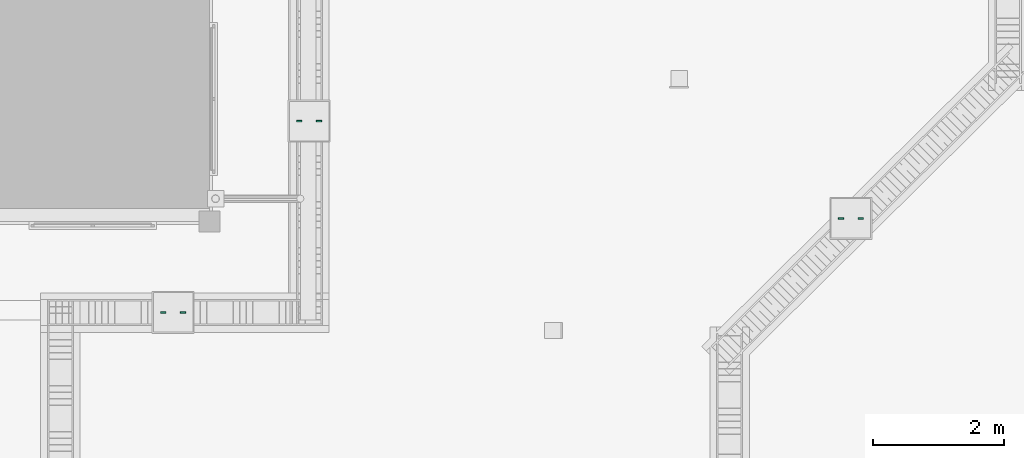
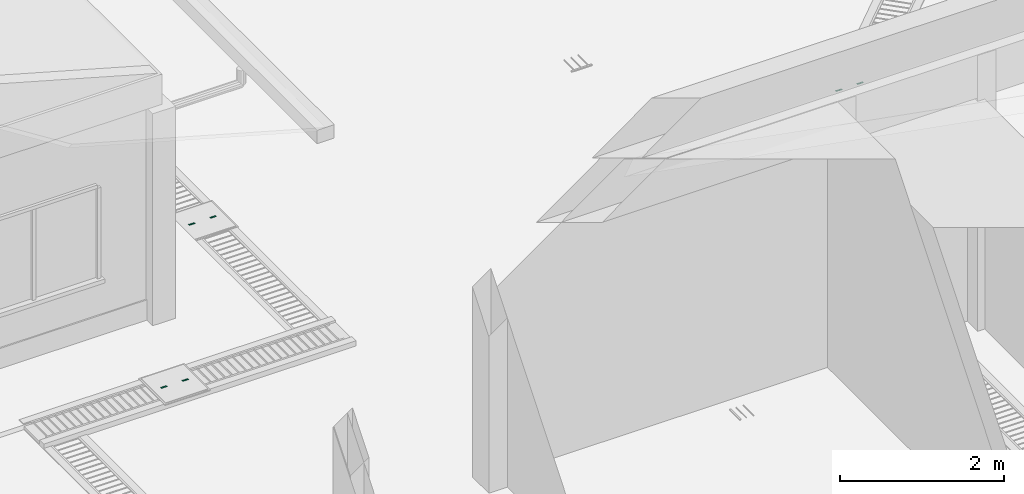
# One storey, part 127 of 151: 6 distribution chamber elements.
"""IFC2X3 building model written with IfcOpenShell, lengths in metres."""

from ifc_helpers import new_model, si_unit, origin, origin_with_axes, place, context, subcontext, project, spatial, faceted_brep, element, save


model = new_model("IFC2X3")

# Units and contexts
model_context = context("Model", 3, precision=1e-05, world=origin_with_axes())
body_context = subcontext(model_context, "Body", "Model", "MODEL_VIEW")
ifc_project = project(units=[si_unit("LENGTHUNIT", "METRE"), si_unit("AREAUNIT", "SQUARE_METRE"), si_unit("VOLUMEUNIT", "CUBIC_METRE"), si_unit("PLANEANGLEUNIT", "RADIAN")], contexts=[model_context])

# Site, building, storey
site_placement = place(None, origin_with_axes())
site = spatial("IfcSite", under=ifc_project, at=site_placement, Name="Predio Los Mangos - Morales, San Martín", CompositionType="ELEMENT")
building_placement = place(site_placement, origin())
building = spatial("IfcBuilding", under=site, at=building_placement, Name="Hogar de Refugio Temporal", CompositionType="ELEMENT")
storey_placement = place(building_placement, origin())
storey = spatial("IfcBuildingStorey", under=building, at=storey_placement, Name="NIVEL 1 (NPT +0.00)", CompositionType="ELEMENT", Elevation=0.0)

# Distribution chamber elements
distribution_chamber_element_1_placement = place(storey_placement, origin())
element("IfcDistributionChamberElement", 1, at=distribution_chamber_element_1_placement, inside=storey, Name="tapa_insp_asa", ObjectType="Tapa de inspección", context=body_context, shape_type="Brep", body=[
    faceted_brep([(32.925, 27.818, 0.104), (32.925, 27.842, 0.104), (33.005, 27.842, 0.104), (33.005, 27.818, 0.104), (32.925, 27.818, 0.108), (33.005, 27.818, 0.108), (33.005, 27.842, 0.108), (32.925, 27.842, 0.108)], [[[0, 1, 2, 3]], [[4, 5, 6, 7]], [[0, 3, 5, 4]], [[3, 2, 6, 5]], [[2, 1, 7, 6]], [[1, 0, 4, 7]]]),
])
distribution_chamber_element_2_placement = place(storey_placement, origin())
element("IfcDistributionChamberElement", 2, at=distribution_chamber_element_2_placement, inside=storey, Name="tapa_insp_asa", ObjectType="Tapa de inspección", context=body_context, shape_type="Brep", body=[
    faceted_brep([(33.225, 27.818, 0.104), (33.225, 27.842, 0.104), (33.305, 27.842, 0.104), (33.305, 27.818, 0.104), (33.225, 27.818, 0.108), (33.305, 27.818, 0.108), (33.305, 27.842, 0.108), (33.225, 27.842, 0.108)], [[[0, 1, 2, 3]], [[4, 5, 6, 7]], [[0, 3, 5, 4]], [[3, 2, 6, 5]], [[2, 1, 7, 6]], [[1, 0, 4, 7]]]),
])
distribution_chamber_element_3_placement = place(storey_placement, origin())
element("IfcDistributionChamberElement", 3, at=distribution_chamber_element_3_placement, inside=storey, Name="tapa_insp_asa", ObjectType="Tapa de inspección", context=body_context, shape_type="Brep", body=[
    faceted_brep([(30.853, 24.907, 0.17), (30.853, 24.931, 0.17), (30.933, 24.931, 0.17), (30.933, 24.907, 0.17), (30.853, 24.907, 0.174), (30.933, 24.907, 0.174), (30.933, 24.931, 0.174), (30.853, 24.931, 0.174)], [[[0, 1, 2, 3]], [[4, 5, 6, 7]], [[0, 3, 5, 4]], [[3, 2, 6, 5]], [[2, 1, 7, 6]], [[1, 0, 4, 7]]]),
])
distribution_chamber_element_4_placement = place(storey_placement, origin())
element("IfcDistributionChamberElement", 4, at=distribution_chamber_element_4_placement, inside=storey, Name="tapa_insp_asa", ObjectType="Tapa de inspección", context=body_context, shape_type="Brep", body=[
    faceted_brep([(31.153, 24.907, 0.17), (31.153, 24.931, 0.17), (31.233, 24.931, 0.17), (31.233, 24.907, 0.17), (31.153, 24.907, 0.174), (31.233, 24.907, 0.174), (31.233, 24.931, 0.174), (31.153, 24.931, 0.174)], [[[0, 1, 2, 3]], [[4, 5, 6, 7]], [[0, 3, 5, 4]], [[3, 2, 6, 5]], [[2, 1, 7, 6]], [[1, 0, 4, 7]]]),
])
distribution_chamber_element_5_placement = place(storey_placement, origin())
element("IfcDistributionChamberElement", 5, at=distribution_chamber_element_5_placement, inside=storey, Name="tapa_insp_asa", ObjectType="Tapa de inspección", context=body_context, shape_type="Brep", body=[
    faceted_brep([(41.171, 26.339, 0.104), (41.171, 26.363, 0.104), (41.251, 26.363, 0.104), (41.251, 26.339, 0.104), (41.171, 26.339, 0.108), (41.251, 26.339, 0.108), (41.251, 26.363, 0.108), (41.171, 26.363, 0.108)], [[[0, 1, 2, 3]], [[4, 5, 6, 7]], [[0, 3, 5, 4]], [[3, 2, 6, 5]], [[2, 1, 7, 6]], [[1, 0, 4, 7]]]),
])
distribution_chamber_element_6_placement = place(storey_placement, origin())
element("IfcDistributionChamberElement", 6, at=distribution_chamber_element_6_placement, inside=storey, Name="tapa_insp_asa", ObjectType="Tapa de inspección", context=body_context, shape_type="Brep", body=[
    faceted_brep([(41.471, 26.339, 0.104), (41.471, 26.363, 0.104), (41.551, 26.363, 0.104), (41.551, 26.339, 0.104), (41.471, 26.339, 0.108), (41.551, 26.339, 0.108), (41.551, 26.363, 0.108), (41.471, 26.363, 0.108)], [[[0, 1, 2, 3]], [[4, 5, 6, 7]], [[0, 3, 5, 4]], [[3, 2, 6, 5]], [[2, 1, 7, 6]], [[1, 0, 4, 7]]]),
])

save(model, "model.ifc")
